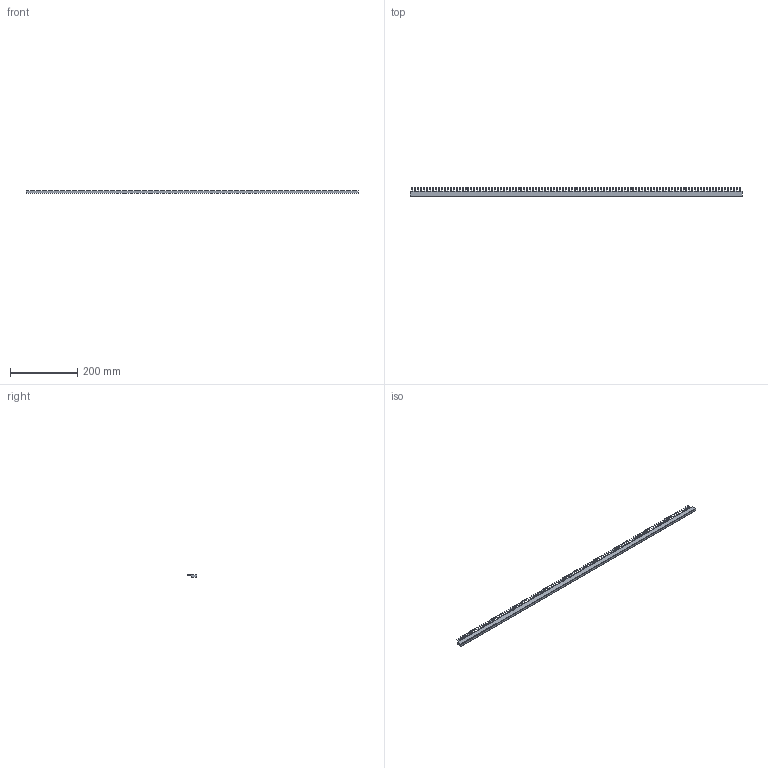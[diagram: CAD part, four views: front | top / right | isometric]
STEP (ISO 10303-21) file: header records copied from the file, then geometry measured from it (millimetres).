
FILE_DESCRIPTION (( 'STEP AP214' ), '1' );
FILE_NAME ('RIC-PS-1-2.STEP', '2024-04-11T07:01:31', ( '' ), ( '' ), 'SwSTEP 2.0', 'SolidWorks 2022', '' );
FILE_SCHEMA (( 'AUTOMOTIVE_DESIGN' ));
Length unit declared in the file: millimetre
Products named in the file (1): RIC-PS-1-2
Bounding box: 986 x 27.19 x 8.3 mm (x, y, z)
Volume: 127852.6 mm3; surface area: 57043.3 mm2
Topology: 1 solids, 1 shells, 962 faces, 2544 edges, 1696 vertices
Faces by surface type: plane 566, cylinder 396
Entity records: 30064 total; most frequent: DIRECTION 5262, CARTESIAN_POINT 5203, ORIENTED_EDGE 5088, EDGE_CURVE 2544, AXIS2_PLACEMENT_3D 1755, LINE 1752, VECTOR 1752, VERTEX_POINT 1696
